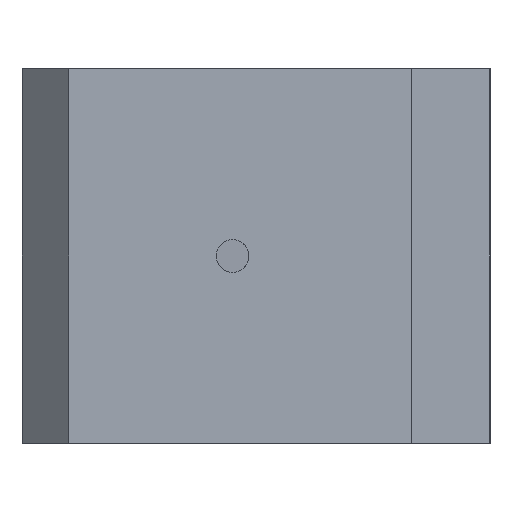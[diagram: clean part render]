
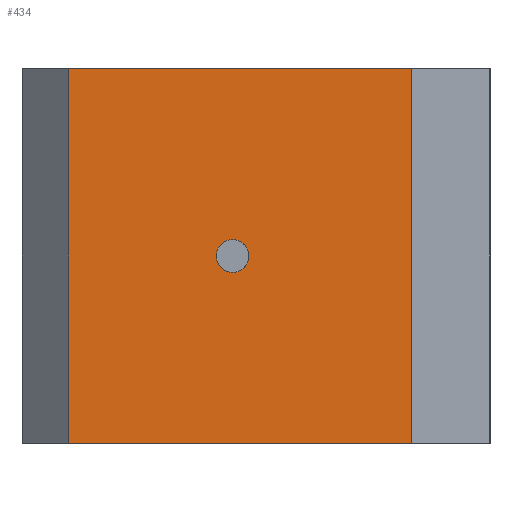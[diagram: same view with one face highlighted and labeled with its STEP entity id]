
A CAD part, left-side view. The second image highlights one B-rep face of the part: STEP entity #434.
In plain terms, the highlighted planar face has unit normal (-1, 0, 0).
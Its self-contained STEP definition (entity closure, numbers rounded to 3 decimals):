
#23 = EDGE_CURVE ( 'NONE', #94, #448, #815, .T. ) ;
#35 = EDGE_LOOP ( 'NONE', ( #592, #230, #674, #308 ) ) ;
#36 = VECTOR ( 'NONE', #450, 1000. ) ;
#75 = CARTESIAN_POINT ( 'NONE',  ( -29., 24., 24. ) ) ;
#94 = VERTEX_POINT ( 'NONE', #75 ) ;
#114 = DIRECTION ( 'NONE',  ( 0., 0., 1. ) ) ;
#125 = DIRECTION ( 'NONE',  ( 0., 1., 0. ) ) ;
#126 = CARTESIAN_POINT ( 'NONE',  ( -29., -20., 24. ) ) ;
#152 = CARTESIAN_POINT ( 'NONE',  ( -29., 3., -2.1 ) ) ;
#157 = CARTESIAN_POINT ( 'NONE',  ( -29., -20., -24. ) ) ;
#168 = CARTESIAN_POINT ( 'NONE',  ( -29., 30., -24. ) ) ;
#198 = DIRECTION ( 'NONE',  ( 0., 1., 0. ) ) ;
#205 = VERTEX_POINT ( 'NONE', #152 ) ;
#230 = ORIENTED_EDGE ( 'NONE', *, *, #23, .T. ) ;
#251 = CARTESIAN_POINT ( 'NONE',  ( -29., 24., -24. ) ) ;
#268 = DIRECTION ( 'NONE',  ( 1., 0., 0. ) ) ;
#290 = DIRECTION ( 'NONE',  ( 0., 0., 1. ) ) ;
#295 = AXIS2_PLACEMENT_3D ( 'NONE', #679, #268, #198 ) ;
#300 = EDGE_LOOP ( 'NONE', ( #798, #383 ) ) ;
#304 = AXIS2_PLACEMENT_3D ( 'NONE', #647, #520, #290 ) ;
#308 = ORIENTED_EDGE ( 'NONE', *, *, #322, .T. ) ;
#309 = DIRECTION ( 'NONE',  ( 0., 0., -1. ) ) ;
#310 = CARTESIAN_POINT ( 'NONE',  ( -29., 3., 0. ) ) ;
#322 = EDGE_CURVE ( 'NONE', #818, #484, #649, .T. ) ;
#323 = CARTESIAN_POINT ( 'NONE',  ( -29., 30., 24. ) ) ;
#383 = ORIENTED_EDGE ( 'NONE', *, *, #880, .F. ) ;
#391 = FACE_BOUND ( 'NONE', #300, .T. ) ;
#395 = CIRCLE ( 'NONE', #304, 2.1 ) ;
#407 = EDGE_CURVE ( 'NONE', #818, #448, #605, .T. ) ;
#410 = DIRECTION ( 'NONE',  ( -1., 0., 0. ) ) ;
#418 = EDGE_CURVE ( 'NONE', #463, #205, #704, .T. ) ;
#434 = ADVANCED_FACE ( 'NONE', ( #391, #841 ), #551, .F. ) ;
#448 = VERTEX_POINT ( 'NONE', #547 ) ;
#450 = DIRECTION ( 'NONE',  ( 0., 1., 0. ) ) ;
#463 = VERTEX_POINT ( 'NONE', #542 ) ;
#484 = VERTEX_POINT ( 'NONE', #126 ) ;
#490 = CARTESIAN_POINT ( 'NONE',  ( -29., -20., -24. ) ) ;
#506 = AXIS2_PLACEMENT_3D ( 'NONE', #310, #410, #114 ) ;
#520 = DIRECTION ( 'NONE',  ( -1., 0., 0. ) ) ;
#542 = CARTESIAN_POINT ( 'NONE',  ( -29., 3., 2.1 ) ) ;
#547 = CARTESIAN_POINT ( 'NONE',  ( -29., 24., -24. ) ) ;
#551 = PLANE ( 'NONE',  #295 ) ;
#581 = VECTOR ( 'NONE', #309, 1000. ) ;
#592 = ORIENTED_EDGE ( 'NONE', *, *, #616, .T. ) ;
#605 = LINE ( 'NONE', #168, #36 ) ;
#616 = EDGE_CURVE ( 'NONE', #484, #94, #694, .T. ) ;
#647 = CARTESIAN_POINT ( 'NONE',  ( -29., 3., 0. ) ) ;
#649 = LINE ( 'NONE', #157, #687 ) ;
#674 = ORIENTED_EDGE ( 'NONE', *, *, #407, .F. ) ;
#679 = CARTESIAN_POINT ( 'NONE',  ( -29., 30., -24. ) ) ;
#687 = VECTOR ( 'NONE', #816, 1000. ) ;
#694 = LINE ( 'NONE', #323, #855 ) ;
#704 = CIRCLE ( 'NONE', #506, 2.1 ) ;
#798 = ORIENTED_EDGE ( 'NONE', *, *, #418, .F. ) ;
#815 = LINE ( 'NONE', #251, #581 ) ;
#816 = DIRECTION ( 'NONE',  ( 0., 0., 1. ) ) ;
#818 = VERTEX_POINT ( 'NONE', #490 ) ;
#841 = FACE_OUTER_BOUND ( 'NONE', #35, .T. ) ;
#855 = VECTOR ( 'NONE', #125, 1000. ) ;
#880 = EDGE_CURVE ( 'NONE', #205, #463, #395, .T. ) ;
